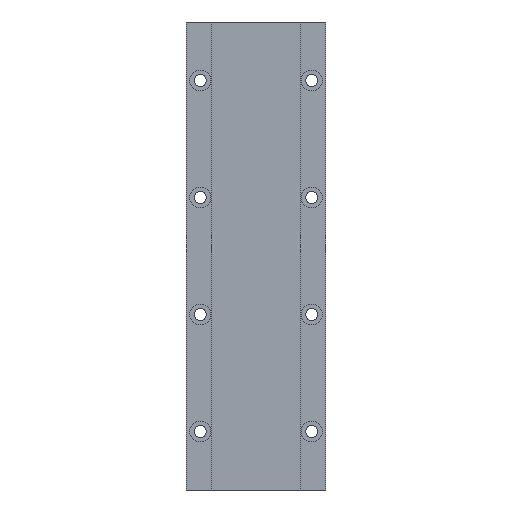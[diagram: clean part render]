
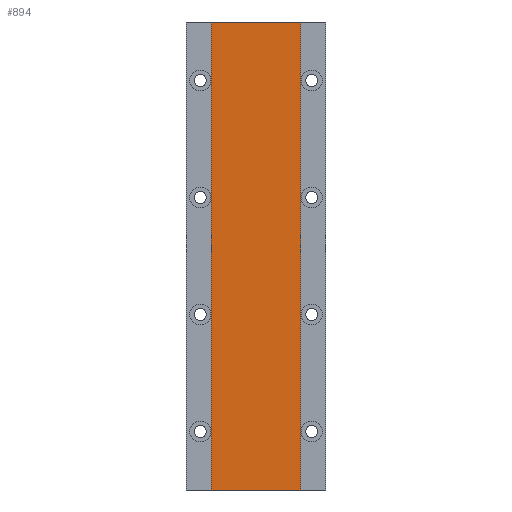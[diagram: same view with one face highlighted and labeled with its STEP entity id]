
A CAD part, left-side view. The second image highlights one B-rep face of the part: STEP entity #894.
In plain terms, the highlighted planar face has unit normal (-1, 0, 0).
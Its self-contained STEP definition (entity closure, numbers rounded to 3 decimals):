
#8 = DIRECTION ( 'NONE',  ( 0., 0., -1. ) ) ;
#83 = VERTEX_POINT ( 'NONE', #137 ) ;
#90 = CARTESIAN_POINT ( 'NONE',  ( -7.8, -16., 168. ) ) ;
#103 = VECTOR ( 'NONE', #432, 1000. ) ;
#137 = CARTESIAN_POINT ( 'NONE',  ( -7.8, 16., 0. ) ) ;
#153 = LINE ( 'NONE', #725, #350 ) ;
#210 = EDGE_CURVE ( 'NONE', #1412, #794, #1393, .T. ) ;
#237 = DIRECTION ( 'NONE',  ( 0., 1., 0. ) ) ;
#242 = ORIENTED_EDGE ( 'NONE', *, *, #210, .T. ) ;
#244 = ORIENTED_EDGE ( 'NONE', *, *, #1423, .F. ) ;
#343 = ORIENTED_EDGE ( 'NONE', *, *, #1493, .T. ) ;
#347 = CARTESIAN_POINT ( 'NONE',  ( -7.8, -16., 168. ) ) ;
#350 = VECTOR ( 'NONE', #237, 1000. ) ;
#432 = DIRECTION ( 'NONE',  ( 0., 1., 0. ) ) ;
#450 = CARTESIAN_POINT ( 'NONE',  ( -7.8, 0., 168. ) ) ;
#488 = FACE_OUTER_BOUND ( 'NONE', #1431, .T. ) ;
#652 = CARTESIAN_POINT ( 'NONE',  ( -7.8, -16., 0. ) ) ;
#667 = AXIS2_PLACEMENT_3D ( 'NONE', #450, #944, #1546 ) ;
#681 = CARTESIAN_POINT ( 'NONE',  ( -7.8, 16., 168. ) ) ;
#725 = CARTESIAN_POINT ( 'NONE',  ( -7.8, 0., 0. ) ) ;
#743 = CARTESIAN_POINT ( 'NONE',  ( -7.8, 16., 168. ) ) ;
#752 = VERTEX_POINT ( 'NONE', #652 ) ;
#794 = VERTEX_POINT ( 'NONE', #681 ) ;
#853 = ORIENTED_EDGE ( 'NONE', *, *, #1477, .F. ) ;
#894 = ADVANCED_FACE ( 'NONE', ( #488 ), #1410, .T. ) ;
#896 = CARTESIAN_POINT ( 'NONE',  ( -7.8, 0., 168. ) ) ;
#944 = DIRECTION ( 'NONE',  ( -1., 0., 0. ) ) ;
#955 = VECTOR ( 'NONE', #8, 1000. ) ;
#958 = LINE ( 'NONE', #347, #1350 ) ;
#1186 = DIRECTION ( 'NONE',  ( 0., 0., -1. ) ) ;
#1308 = LINE ( 'NONE', #743, #955 ) ;
#1350 = VECTOR ( 'NONE', #1186, 1000. ) ;
#1393 = LINE ( 'NONE', #896, #103 ) ;
#1410 = PLANE ( 'NONE',  #667 ) ;
#1412 = VERTEX_POINT ( 'NONE', #90 ) ;
#1423 = EDGE_CURVE ( 'NONE', #1412, #752, #958, .T. ) ;
#1431 = EDGE_LOOP ( 'NONE', ( #853, #244, #242, #343 ) ) ;
#1477 = EDGE_CURVE ( 'NONE', #752, #83, #153, .T. ) ;
#1493 = EDGE_CURVE ( 'NONE', #794, #83, #1308, .T. ) ;
#1546 = DIRECTION ( 'NONE',  ( 0., 0., 1. ) ) ;
